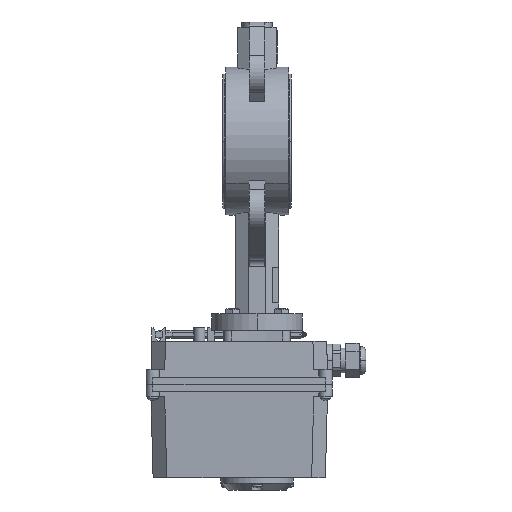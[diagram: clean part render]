
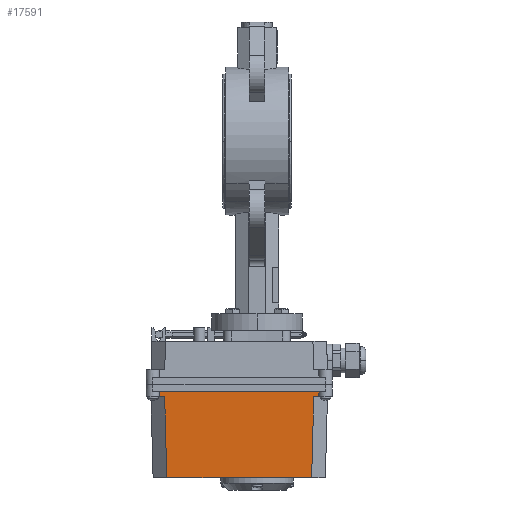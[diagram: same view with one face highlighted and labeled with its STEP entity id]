
A CAD part, left-side view. The second image highlights one B-rep face of the part: STEP entity #17591.
In plain terms, the highlighted planar face has unit normal (-1, 0, -0.026) as drawn and (0, 0.026, -1) by its records, which use the part's own axes.
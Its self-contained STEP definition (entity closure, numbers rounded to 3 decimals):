
#16768=CARTESIAN_POINT('',(58.199,9.,-42.895));
#16769=CARTESIAN_POINT('',(58.209,7.667,
-42.93));
#16770=CARTESIAN_POINT('',(58.219,6.333,
-42.965));
#16771=CARTESIAN_POINT('',(58.23,5.,-43.));
#16783=DIRECTION('',(1.,0.,0.));
#16784=VECTOR('',#16783,116.461);
#16785=CARTESIAN_POINT('',(-58.23,5.,-43.));
#16786=LINE('',#16785,#16784);
#16787=DIRECTION('',(-0.026,0.999,0.026));
#16788=VECTOR('',#16787,59.04);
#16789=CARTESIAN_POINT('',(54.392,9.,-42.895));
#16790=LINE('',#16789,#16788);
#16791=DIRECTION('',(0.026,0.999,0.026));
#16792=VECTOR('',#16791,59.04);
#16793=CARTESIAN_POINT('',(-54.392,9.,-42.895));
#16794=LINE('',#16793,#16792);
#16921=DIRECTION('',(1.,0.,0.));
#16922=VECTOR('',#16921,3.807);
#16923=CARTESIAN_POINT('',(54.392,9.,-42.895));
#16924=LINE('',#16923,#16922);
#16925=DIRECTION('',(1.,0.,0.));
#16926=VECTOR('',#16925,3.807);
#16927=CARTESIAN_POINT('',(-58.199,9.,-42.895));
#16928=LINE('',#16927,#16926);
#16950=CARTESIAN_POINT('',(-58.23,5.,-43.));
#16951=CARTESIAN_POINT('',(-58.219,6.333,
-42.965));
#16952=CARTESIAN_POINT('',(-58.209,7.667,
-42.93));
#16953=CARTESIAN_POINT('',(-58.199,9.,-42.895));
#17018=DIRECTION('',(-1.,0.,0.));
#17019=VECTOR('',#17018,105.694);
#17020=CARTESIAN_POINT('',(52.847,68.,-41.35));
#17021=LINE('',#17020,#17019);
#17475=CARTESIAN_POINT('',(52.847,68.,-41.35));
#17477=VERTEX_POINT('',#17475);
#17478=CARTESIAN_POINT('',(-52.847,68.,-41.35));
#17480=VERTEX_POINT('',#17478);
#17490=VERTEX_POINT('',#16768);
#17491=VERTEX_POINT('',#16771);
#17504=VERTEX_POINT('',#16950);
#17505=VERTEX_POINT('',#16953);
#17507=CARTESIAN_POINT('',(54.392,9.,-42.895));
#17509=VERTEX_POINT('',#17507);
#17510=CARTESIAN_POINT('',(-54.392,9.,-42.895));
#17512=VERTEX_POINT('',#17510);
#17569=CARTESIAN_POINT('',(0.,36.5,-42.175));
#17570=DIRECTION('',(0.,0.026,-1.));
#17571=DIRECTION('',(0.,-1.,-0.026));
#17572=AXIS2_PLACEMENT_3D('',#17569,#17570,#17571);
#17573=PLANE('',#17572);
#17575=ORIENTED_EDGE('',*,*,#17574,.T.);
#17576=ORIENTED_EDGE('',*,*,#17551,.F.);
#17578=ORIENTED_EDGE('',*,*,#17577,.F.);
#17580=ORIENTED_EDGE('',*,*,#17579,.T.);
#17582=ORIENTED_EDGE('',*,*,#17581,.T.);
#17584=ORIENTED_EDGE('',*,*,#17583,.F.);
#17586=ORIENTED_EDGE('',*,*,#17585,.F.);
#17588=ORIENTED_EDGE('',*,*,#17587,.F.);
#17589=EDGE_LOOP('',(#17575,#17576,#17578,#17580,#17582,#17584,#17586,#17588));
#17590=FACE_OUTER_BOUND('',#17589,.F.);
#17591=ADVANCED_FACE('',(#17590),#17573,.T.);
#16772=B_SPLINE_CURVE_WITH_KNOTS('',3,(#16768,#16769,#16770,#16771),
.UNSPECIFIED.,.F.,.F.,(4,4),(0.,1.),.UNSPECIFIED.);
#16954=B_SPLINE_CURVE_WITH_KNOTS('',3,(#16950,#16951,#16952,#16953),
.UNSPECIFIED.,.F.,.F.,(4,4),(0.,1.),.UNSPECIFIED.);
#17551=EDGE_CURVE('',#17490,#17491,#16772,.T.);
#17574=EDGE_CURVE('',#17504,#17491,#16786,.T.);
#17577=EDGE_CURVE('',#17509,#17490,#16924,.T.);
#17579=EDGE_CURVE('',#17509,#17477,#16790,.T.);
#17581=EDGE_CURVE('',#17477,#17480,#17021,.T.);
#17583=EDGE_CURVE('',#17512,#17480,#16794,.T.);
#17585=EDGE_CURVE('',#17505,#17512,#16928,.T.);
#17587=EDGE_CURVE('',#17504,#17505,#16954,.T.);
